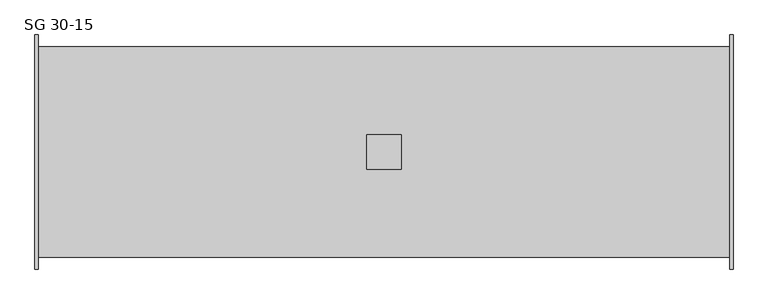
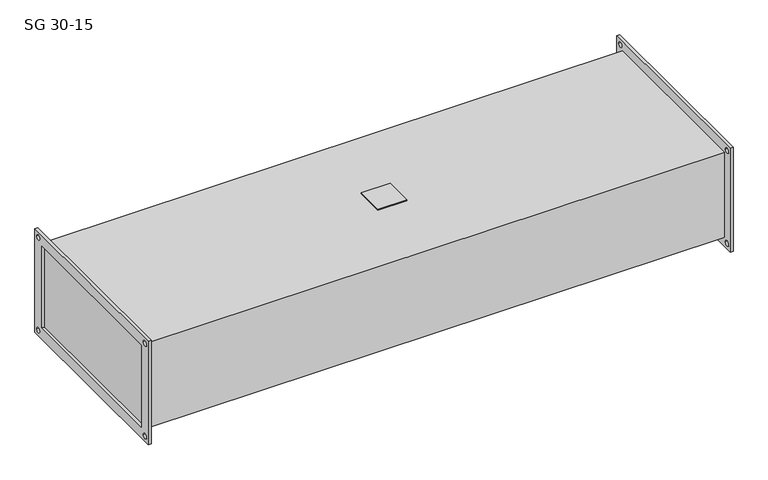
"""IFC4 building model written with IfcOpenShell, lengths in millimetres: damper geometry, KORF_Шумоглушитель_SG : SG 30-15."""

import ifcopenshell
import ifcopenshell.guid

model = None  # the IFC model being written
_history = None  # IfcOwnerHistory: only IFC2X3 demands one
_inside = {}  # id of a spatial element -> (the spatial element, [elements in it])
_under = {}  # id of a project, library or spatial element -> (it, [spatial elements below it])
_declared = {}  # id of a project -> (the project, [libraries it declares])
_typed = {}  # id of a type object -> (the type object, [elements of that type])
_made_of = {}  # id of a material, layer set ... -> (it, [elements and type objects made of it])


def new_model(schema):
    """Start an empty IFC model of exactly this schema.

    Asked for "IFC4X3", IfcOpenShell would pick the latest addendum, in which some entities
    have other attributes; the version numbers below select the first issue.
    IFC2X3 requires an IfcOwnerHistory on every rooted entity: one is made here for all.
    """
    global model, _history
    if schema == "IFC4X3":
        model = ifcopenshell.file(schema_version=(4, 3, 0, 0))
    else:
        model = ifcopenshell.file(schema=schema)
    _inside.clear()
    _under.clear()
    _declared.clear()
    _typed.clear()
    _made_of.clear()
    _history = None
    if model.schema == "IFC2X3":
        org = make("IfcOrganization", Name="unknown")
        user = make(
            "IfcPersonAndOrganization",
            ThePerson=make("IfcPerson", FamilyName="unknown"),
            TheOrganization=org,
        )
        app = make(
            "IfcApplication",
            ApplicationDeveloper=org,
            Version="unknown",
            ApplicationFullName="unknown",
            ApplicationIdentifier="unknown",
        )
        _history = make(
            "IfcOwnerHistory",
            OwningUser=user,
            OwningApplication=app,
            ChangeAction="ADDED",
            CreationDate=0,
        )
    return model


def make(cls, **values):
    """One entity of the class cls with the attributes given. An attribute that is None is left unset."""
    return model.create_entity(
        cls, **{name: value for name, value in values.items() if value is not None}
    )


def rooted(cls, **values):
    """An entity with a GlobalId (a new one), such as an element, a storey or a relation."""
    return make(cls, GlobalId=ifcopenshell.guid.new(), OwnerHistory=_history, **values)


def si_unit(unit_type, name, prefix=None):
    """IfcSIUnit, for example si_unit("LENGTHUNIT", "METRE", prefix="MILLI")."""
    return make("IfcSIUnit", UnitType=unit_type, Prefix=prefix, Name=name)


def assignment(units):
    """IfcUnitAssignment: the units of a project."""
    return None if units is None else make("IfcUnitAssignment", Units=units)


def point(xyz):
    """IfcCartesianPoint."""
    return None if xyz is None else make("IfcCartesianPoint", Coordinates=xyz)


def direction(xyz):
    """IfcDirection."""
    return None if xyz is None else make("IfcDirection", DirectionRatios=xyz)


def frame(location, z_axis=None, x_axis=None):
    """IfcAxis2Placement3D, a coordinate frame: its origin and axes. An axis left out is left unset."""
    return make(
        "IfcAxis2Placement3D",
        Location=point(location),
        Axis=direction(z_axis),
        RefDirection=direction(x_axis),
    )


def frame_2d(location, x_axis=None):
    """IfcAxis2Placement2D, a coordinate frame in the plane: its origin and x axis."""
    return make(
        "IfcAxis2Placement2D", Location=point(location), RefDirection=direction(x_axis)
    )


def origin():
    """The frame at (0, 0, 0) with its axes left unset."""
    return frame((0.0, 0.0, 0.0))


def place(relative_to, where):
    """IfcLocalPlacement: puts the frame where relative to a parent placement (None: the world)."""
    return make(
        "IfcLocalPlacement", PlacementRelTo=relative_to, RelativePlacement=where
    )


def context(
    kind, dimensions, precision=None, world=None, true_north=None, identifier=None
):
    """IfcGeometricRepresentationContext, for example the 3D "Model" context."""
    return make(
        "IfcGeometricRepresentationContext",
        ContextIdentifier=identifier,
        ContextType=kind,
        CoordinateSpaceDimension=dimensions,
        Precision=precision,
        WorldCoordinateSystem=world,
        TrueNorth=true_north,
    )


def project(units=None, contexts=None):
    """IfcProject with its units and contexts."""
    return rooted(
        "IfcProject",
        Name="project",
        RepresentationContexts=contexts,
        UnitsInContext=assignment(units),
    )


def spatial(cls, under=None, at=None, **own):
    """A site, building, storey or space (cls), placed at a placement, below another one or the project."""
    s = rooted(cls, ObjectPlacement=at, **own)
    if under is not None:
        _under.setdefault(under.id(), (under, []))[1].append(s)
    return s


def polyline(points):
    """IfcPolyline through the points."""
    return make("IfcPolyline", Points=[point(p) for p in points])


def circle_curve(where, radius):
    """IfcCircle in the frame where."""
    return make("IfcCircle", Position=where, Radius=radius)


def trimmed(basis, trim1, trim2, sense, master):
    """IfcTrimmedCurve: the piece of a basis curve between two trims."""
    return make(
        "IfcTrimmedCurve",
        BasisCurve=basis,
        Trim1=trim1,
        Trim2=trim2,
        SenseAgreement=sense,
        MasterRepresentation=master,
    )


def segment(curve, same_sense, transition):
    """IfcCompositeCurveSegment."""
    return make(
        "IfcCompositeCurveSegment",
        Transition=transition,
        SameSense=same_sense,
        ParentCurve=curve,
    )


def composite_curve(segments, self_intersect=None):
    """IfcCompositeCurve: segments joined end to end."""
    return make("IfcCompositeCurve", Segments=segments, SelfIntersect=self_intersect)


def outline(outer, holes=None, kind="AREA"):
    """IfcArbitraryClosedProfileDef: a profile drawn as a closed curve; with holes, ...WithVoids."""
    if holes is None:
        return make("IfcArbitraryClosedProfileDef", ProfileType=kind, OuterCurve=outer)
    return make(
        "IfcArbitraryProfileDefWithVoids",
        ProfileType=kind,
        OuterCurve=outer,
        InnerCurves=holes,
    )


def extrude(swept, where, along, depth):
    """IfcExtrudedAreaSolid: the profile swept, set in the frame where, extruded along a direction by depth."""
    return make(
        "IfcExtrudedAreaSolid",
        SweptArea=swept,
        Position=where,
        ExtrudedDirection=direction(along),
        Depth=depth,
    )


def shape(context_of_items, identifier, shape_type, items):
    """IfcShapeRepresentation: the items that make up one representation, for example the "Body"."""
    return make(
        "IfcShapeRepresentation",
        ContextOfItems=context_of_items,
        RepresentationIdentifier=identifier,
        RepresentationType=shape_type,
        Items=items,
    )


def source(mapping_origin, context_of_items, identifier, shape_type, items):
    """IfcRepresentationMap: a shape defined once, which mapped items show again and again."""
    return make(
        "IfcRepresentationMap",
        MappingOrigin=mapping_origin,
        MappedRepresentation=shape(context_of_items, identifier, shape_type, items),
    )


def transform(
    local_origin,
    x_axis=None,
    y_axis=None,
    z_axis=None,
    scale=None,
    scale2=None,
    scale3=None,
    uniform=True,
):
    """IfcCartesianTransformationOperator3D, or its non-uniform kind. x_axis, y_axis, z_axis: its Axis1, 2, 3."""
    if uniform:
        return make(
            "IfcCartesianTransformationOperator3D",
            Axis1=direction(x_axis),
            Axis2=direction(y_axis),
            LocalOrigin=point(local_origin),
            Scale=scale,
            Axis3=direction(z_axis),
        )
    return make(
        "IfcCartesianTransformationOperator3DnonUniform",
        Axis1=direction(x_axis),
        Axis2=direction(y_axis),
        LocalOrigin=point(local_origin),
        Scale=scale,
        Axis3=direction(z_axis),
        Scale2=scale2,
        Scale3=scale3,
    )


def mapped(mapping_source, mapping_target):
    """IfcMappedItem: shows the shape of a source again, moved by a transform."""
    return make(
        "IfcMappedItem", MappingSource=mapping_source, MappingTarget=mapping_target
    )


def made_of(thing, what):
    """Note that an element or type object is made of a material, layer set ...; save() writes the relation."""
    if what is not None:
        _made_of.setdefault(what.id(), (what, []))[1].append(thing)
    return thing


def element(
    cls,
    number,
    at=None,
    inside=None,
    cuts=None,
    type_object=None,
    material=None,
    context=None,
    identifier="Body",
    shape_type=None,
    held_by="IfcProductDefinitionShape",
    body=None,
    shapes=None,
    **own,
):
    """One element of the class cls, such as IfcWall. Its Tag is "e" and its number.

    at: its placement. inside: the storey or other place that contains it. cuts: it is an
    opening in that element (IfcRelVoidsElement). A single representation is given by context,
    identifier, shape_type and body (its items); several are given by shapes. held_by: the class
    of the entity that holds the representations. save() writes the other relations.
    """
    e = rooted(cls, Tag="e%d" % number, ObjectPlacement=at, **own)
    if body is not None:
        shapes = [shape(context, identifier, shape_type, body)]
    if shapes is not None:
        e.Representation = make(held_by, Representations=shapes)
    if inside is not None:
        _inside.setdefault(inside.id(), (inside, []))[1].append(e)
    if cuts is not None:
        rooted(
            "IfcRelVoidsElement", RelatingBuildingElement=cuts, RelatedOpeningElement=e
        )
    if type_object is not None:
        _typed.setdefault(type_object.id(), (type_object, []))[1].append(e)
    return made_of(e, material)


def aggregate(whole, parts):
    """IfcRelAggregates: a whole, such as a stair, and the parts it consists of."""
    return rooted("IfcRelAggregates", RelatingObject=whole, RelatedObjects=parts)


def save(model, path):
    """Write the relations noted so far, then the file.

    IfcRelAggregates (storeys below a building ...), IfcRelContainedInSpatialStructure (elements
    in a storey), IfcRelDefinesByType, IfcRelAssociatesMaterial and IfcRelDeclares: one each for
    every whole, place, type object, material and project.
    """
    for whole, parts in _under.values():
        aggregate(whole, parts)
    for where, things in _inside.values():
        rooted(
            "IfcRelContainedInSpatialStructure",
            RelatedElements=things,
            RelatingStructure=where,
        )
    for kind, things in _typed.values():
        rooted("IfcRelDefinesByType", RelatedObjects=things, RelatingType=kind)
    for what, things in _made_of.values():
        rooted("IfcRelAssociatesMaterial", RelatedObjects=things, RelatingMaterial=what)
    for by, libraries in _declared.values():
        rooted("IfcRelDeclares", RelatingContext=by, RelatedDefinitions=libraries)
    model.write(path)


def sg_30_15_9fe6578c(model_context):
    return source(origin(), model_context, "Body", "SweptSolid", [
        extrude(outline(polyline([(482.0, -25.0), (482.0, 25.0), (532.0, 25.0), (532.0, -25.0), (482.0, -25.0)])), frame((0.0, 0.0, 78.0), z_axis=(0.0, 0.0, 1.0), x_axis=(1.0, 0.0, 0.0)), (0.0, 0.0, 1.0), 2.0),
        extrude(outline(polyline([(-170.0, 95.0), (170.0, 95.0), (170.0, -95.0), (-170.0, -95.0), (-170.0, 95.0)]), holes=[polyline([(-150.0, 75.0), (-150.0, -75.0), (150.0, -75.0), (150.0, 75.0), (-150.0, 75.0)]), composite_curve([segment(trimmed(circle_curve(frame_2d((160.0, 85.0)), 4.5), [point((155.5, 85.0))], [point((164.5, 85.0))], True, "CARTESIAN"), True, "CONTINUOUS"), segment(trimmed(circle_curve(frame_2d((160.0, 85.0)), 4.5), [point((164.5, 85.0))], [point((155.5, 85.0))], True, "CARTESIAN"), True, "CONTINUOUS")], self_intersect=False), composite_curve([segment(trimmed(circle_curve(frame_2d((-160.0, 85.0)), 4.5), [point((-164.5, 85.0))], [point((-155.5, 85.0))], True, "CARTESIAN"), True, "CONTINUOUS"), segment(trimmed(circle_curve(frame_2d((-160.0, 85.0)), 4.5), [point((-155.5, 85.0))], [point((-164.5, 85.0))], True, "CARTESIAN"), True, "CONTINUOUS")], self_intersect=False), composite_curve([segment(trimmed(circle_curve(frame_2d((-160.0, -85.0)), 4.5), [point((-164.5, -85.0))], [point((-155.5, -85.0))], True, "CARTESIAN"), True, "CONTINUOUS"), segment(trimmed(circle_curve(frame_2d((-160.0, -85.0)), 4.5), [point((-155.5, -85.0))], [point((-164.5, -85.0))], True, "CARTESIAN"), True, "CONTINUOUS")], self_intersect=False), composite_curve([segment(trimmed(circle_curve(frame_2d((160.0, -85.0)), 4.5), [point((155.5, -85.0))], [point((164.5, -85.0))], True, "CARTESIAN"), True, "CONTINUOUS"), segment(trimmed(circle_curve(frame_2d((160.0, -85.0)), 4.5), [point((164.5, -85.0))], [point((155.5, -85.0))], True, "CARTESIAN"), True, "CONTINUOUS")], self_intersect=False)]), frame((1009.0, 0.0, 0.0), z_axis=(1.0, 0.0, 0.0), x_axis=(0.0, 1.0, 0.0)), (0.0, 0.0, 1.0), 5.0),
        extrude(outline(polyline([(-170.0, 95.0), (170.0, 95.0), (170.0, -95.0), (-170.0, -95.0), (-170.0, 95.0)]), holes=[polyline([(-150.0, 75.0), (-150.0, -75.0), (150.0, -75.0), (150.0, 75.0), (-150.0, 75.0)]), composite_curve([segment(trimmed(circle_curve(frame_2d((160.0, 85.0)), 4.5), [point((155.5, 85.0))], [point((164.5, 85.0))], True, "CARTESIAN"), True, "CONTINUOUS"), segment(trimmed(circle_curve(frame_2d((160.0, 85.0)), 4.5), [point((164.5, 85.0))], [point((155.5, 85.0))], True, "CARTESIAN"), True, "CONTINUOUS")], self_intersect=False), composite_curve([segment(trimmed(circle_curve(frame_2d((-160.0, 85.0)), 4.5), [point((-164.5, 85.0))], [point((-155.5, 85.0))], True, "CARTESIAN"), True, "CONTINUOUS"), segment(trimmed(circle_curve(frame_2d((-160.0, 85.0)), 4.5), [point((-155.5, 85.0))], [point((-164.5, 85.0))], True, "CARTESIAN"), True, "CONTINUOUS")], self_intersect=False), composite_curve([segment(trimmed(circle_curve(frame_2d((-160.0, -85.0)), 4.5), [point((-164.5, -85.0))], [point((-155.5, -85.0))], True, "CARTESIAN"), True, "CONTINUOUS"), segment(trimmed(circle_curve(frame_2d((-160.0, -85.0)), 4.5), [point((-155.5, -85.0))], [point((-164.5, -85.0))], True, "CARTESIAN"), True, "CONTINUOUS")], self_intersect=False), composite_curve([segment(trimmed(circle_curve(frame_2d((160.0, -85.0)), 4.5), [point((155.5, -85.0))], [point((164.5, -85.0))], True, "CARTESIAN"), True, "CONTINUOUS"), segment(trimmed(circle_curve(frame_2d((160.0, -85.0)), 4.5), [point((164.5, -85.0))], [point((155.5, -85.0))], True, "CARTESIAN"), True, "CONTINUOUS")], self_intersect=False)]), frame((0.0, 0.0, 0.0), z_axis=(1.0, 0.0, 0.0), x_axis=(0.0, 1.0, 0.0)), (0.0, 0.0, 1.0), 5.0),
        extrude(outline(polyline([(1009.0, 153.0), (1009.0, -153.0), (5.0, -153.0), (5.0, 153.0), (1009.0, 153.0)])), frame((0.0, 0.0, -78.0), z_axis=(0.0, 0.0, 1.0), x_axis=(1.0, 0.0, 0.0)), (0.0, 0.0, 1.0), 156.0),
    ])


if __name__ == "__main__":
    model = new_model("IFC4")
    model_context = context("Model", 3, world=origin())
    ifc_project = project(units=[si_unit("LENGTHUNIT", "METRE", prefix="MILLI")], contexts=[model_context])
    site = spatial("IfcSite", under=ifc_project)
    building = spatial("IfcBuilding", under=site)
    placement = place(None, origin())
    sg_30_15_shape = sg_30_15_9fe6578c(model_context)
    element("IfcDamper", 1, ObjectType="KORF_Шумоглушитель_SG : SG 30-15", at=placement, inside=building, context=model_context, shape_type="MappedRepresentation", body=[
        mapped(sg_30_15_shape, transform((0.0, 0.0, 0.0), x_axis=(1.0, 0.0, 0.0), y_axis=(0.0, 1.0, 0.0), z_axis=(0.0, 0.0, 1.0))),
    ])
    save(model, "model.ifc")
